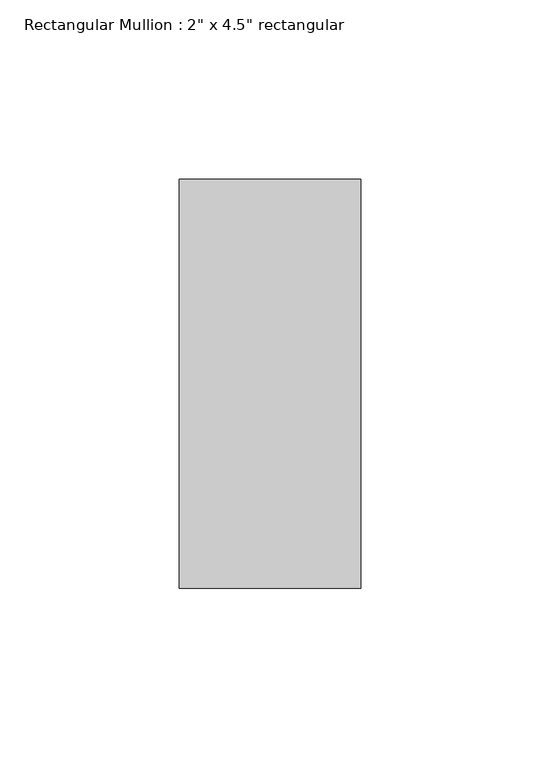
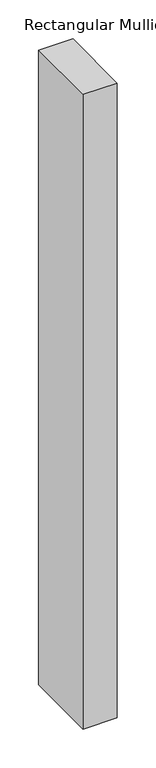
"""IFC4 building model written with IfcOpenShell, lengths in millimetres: member geometry."""

import ifcopenshell
import ifcopenshell.guid

model = None  # the IFC model being written
_history = None  # IfcOwnerHistory: only IFC2X3 demands one
_inside = {}  # id of a spatial element -> (the spatial element, [elements in it])
_under = {}  # id of a project, library or spatial element -> (it, [spatial elements below it])
_declared = {}  # id of a project -> (the project, [libraries it declares])
_typed = {}  # id of a type object -> (the type object, [elements of that type])
_made_of = {}  # id of a material, layer set ... -> (it, [elements and type objects made of it])


def new_model(schema):
    """Start an empty IFC model of exactly this schema.

    Asked for "IFC4X3", IfcOpenShell would pick the latest addendum, in which some entities
    have other attributes; the version numbers below select the first issue.
    IFC2X3 requires an IfcOwnerHistory on every rooted entity: one is made here for all.
    """
    global model, _history
    if schema == "IFC4X3":
        model = ifcopenshell.file(schema_version=(4, 3, 0, 0))
    else:
        model = ifcopenshell.file(schema=schema)
    _inside.clear()
    _under.clear()
    _declared.clear()
    _typed.clear()
    _made_of.clear()
    _history = None
    if model.schema == "IFC2X3":
        org = make("IfcOrganization", Name="unknown")
        user = make(
            "IfcPersonAndOrganization",
            ThePerson=make("IfcPerson", FamilyName="unknown"),
            TheOrganization=org,
        )
        app = make(
            "IfcApplication",
            ApplicationDeveloper=org,
            Version="unknown",
            ApplicationFullName="unknown",
            ApplicationIdentifier="unknown",
        )
        _history = make(
            "IfcOwnerHistory",
            OwningUser=user,
            OwningApplication=app,
            ChangeAction="ADDED",
            CreationDate=0,
        )
    return model


def make(cls, **values):
    """One entity of the class cls with the attributes given. An attribute that is None is left unset."""
    return model.create_entity(
        cls, **{name: value for name, value in values.items() if value is not None}
    )


def rooted(cls, **values):
    """An entity with a GlobalId (a new one), such as an element, a storey or a relation."""
    return make(cls, GlobalId=ifcopenshell.guid.new(), OwnerHistory=_history, **values)


def si_unit(unit_type, name, prefix=None):
    """IfcSIUnit, for example si_unit("LENGTHUNIT", "METRE", prefix="MILLI")."""
    return make("IfcSIUnit", UnitType=unit_type, Prefix=prefix, Name=name)


def assignment(units):
    """IfcUnitAssignment: the units of a project."""
    return None if units is None else make("IfcUnitAssignment", Units=units)


def point(xyz):
    """IfcCartesianPoint."""
    return None if xyz is None else make("IfcCartesianPoint", Coordinates=xyz)


def direction(xyz):
    """IfcDirection."""
    return None if xyz is None else make("IfcDirection", DirectionRatios=xyz)


def frame(location, z_axis=None, x_axis=None):
    """IfcAxis2Placement3D, a coordinate frame: its origin and axes. An axis left out is left unset."""
    return make(
        "IfcAxis2Placement3D",
        Location=point(location),
        Axis=direction(z_axis),
        RefDirection=direction(x_axis),
    )


def origin():
    """The frame at (0, 0, 0) with its axes left unset."""
    return frame((0.0, 0.0, 0.0))


def place(relative_to, where):
    """IfcLocalPlacement: puts the frame where relative to a parent placement (None: the world)."""
    return make(
        "IfcLocalPlacement", PlacementRelTo=relative_to, RelativePlacement=where
    )


def context(
    kind, dimensions, precision=None, world=None, true_north=None, identifier=None
):
    """IfcGeometricRepresentationContext, for example the 3D "Model" context."""
    return make(
        "IfcGeometricRepresentationContext",
        ContextIdentifier=identifier,
        ContextType=kind,
        CoordinateSpaceDimension=dimensions,
        Precision=precision,
        WorldCoordinateSystem=world,
        TrueNorth=true_north,
    )


def project(units=None, contexts=None):
    """IfcProject with its units and contexts."""
    return rooted(
        "IfcProject",
        Name="project",
        RepresentationContexts=contexts,
        UnitsInContext=assignment(units),
    )


def spatial(cls, under=None, at=None, **own):
    """A site, building, storey or space (cls), placed at a placement, below another one or the project."""
    s = rooted(cls, ObjectPlacement=at, **own)
    if under is not None:
        _under.setdefault(under.id(), (under, []))[1].append(s)
    return s


def polyline(points):
    """IfcPolyline through the points."""
    return make("IfcPolyline", Points=[point(p) for p in points])


def outline(outer, holes=None, kind="AREA"):
    """IfcArbitraryClosedProfileDef: a profile drawn as a closed curve; with holes, ...WithVoids."""
    if holes is None:
        return make("IfcArbitraryClosedProfileDef", ProfileType=kind, OuterCurve=outer)
    return make(
        "IfcArbitraryProfileDefWithVoids",
        ProfileType=kind,
        OuterCurve=outer,
        InnerCurves=holes,
    )


def extrude(swept, where, along, depth):
    """IfcExtrudedAreaSolid: the profile swept, set in the frame where, extruded along a direction by depth."""
    return make(
        "IfcExtrudedAreaSolid",
        SweptArea=swept,
        Position=where,
        ExtrudedDirection=direction(along),
        Depth=depth,
    )


def shape(context_of_items, identifier, shape_type, items):
    """IfcShapeRepresentation: the items that make up one representation, for example the "Body"."""
    return make(
        "IfcShapeRepresentation",
        ContextOfItems=context_of_items,
        RepresentationIdentifier=identifier,
        RepresentationType=shape_type,
        Items=items,
    )


def source(mapping_origin, context_of_items, identifier, shape_type, items):
    """IfcRepresentationMap: a shape defined once, which mapped items show again and again."""
    return make(
        "IfcRepresentationMap",
        MappingOrigin=mapping_origin,
        MappedRepresentation=shape(context_of_items, identifier, shape_type, items),
    )


def transform(
    local_origin,
    x_axis=None,
    y_axis=None,
    z_axis=None,
    scale=None,
    scale2=None,
    scale3=None,
    uniform=True,
):
    """IfcCartesianTransformationOperator3D, or its non-uniform kind. x_axis, y_axis, z_axis: its Axis1, 2, 3."""
    if uniform:
        return make(
            "IfcCartesianTransformationOperator3D",
            Axis1=direction(x_axis),
            Axis2=direction(y_axis),
            LocalOrigin=point(local_origin),
            Scale=scale,
            Axis3=direction(z_axis),
        )
    return make(
        "IfcCartesianTransformationOperator3DnonUniform",
        Axis1=direction(x_axis),
        Axis2=direction(y_axis),
        LocalOrigin=point(local_origin),
        Scale=scale,
        Axis3=direction(z_axis),
        Scale2=scale2,
        Scale3=scale3,
    )


def mapped(mapping_source, mapping_target):
    """IfcMappedItem: shows the shape of a source again, moved by a transform."""
    return make(
        "IfcMappedItem", MappingSource=mapping_source, MappingTarget=mapping_target
    )


def made_of(thing, what):
    """Note that an element or type object is made of a material, layer set ...; save() writes the relation."""
    if what is not None:
        _made_of.setdefault(what.id(), (what, []))[1].append(thing)
    return thing


def element(
    cls,
    number,
    at=None,
    inside=None,
    cuts=None,
    type_object=None,
    material=None,
    context=None,
    identifier="Body",
    shape_type=None,
    held_by="IfcProductDefinitionShape",
    body=None,
    shapes=None,
    **own,
):
    """One element of the class cls, such as IfcWall. Its Tag is "e" and its number.

    at: its placement. inside: the storey or other place that contains it. cuts: it is an
    opening in that element (IfcRelVoidsElement). A single representation is given by context,
    identifier, shape_type and body (its items); several are given by shapes. held_by: the class
    of the entity that holds the representations. save() writes the other relations.
    """
    e = rooted(cls, Tag="e%d" % number, ObjectPlacement=at, **own)
    if body is not None:
        shapes = [shape(context, identifier, shape_type, body)]
    if shapes is not None:
        e.Representation = make(held_by, Representations=shapes)
    if inside is not None:
        _inside.setdefault(inside.id(), (inside, []))[1].append(e)
    if cuts is not None:
        rooted(
            "IfcRelVoidsElement", RelatingBuildingElement=cuts, RelatedOpeningElement=e
        )
    if type_object is not None:
        _typed.setdefault(type_object.id(), (type_object, []))[1].append(e)
    return made_of(e, material)


def aggregate(whole, parts):
    """IfcRelAggregates: a whole, such as a stair, and the parts it consists of."""
    return rooted("IfcRelAggregates", RelatingObject=whole, RelatedObjects=parts)


def save(model, path):
    """Write the relations noted so far, then the file.

    IfcRelAggregates (storeys below a building ...), IfcRelContainedInSpatialStructure (elements
    in a storey), IfcRelDefinesByType, IfcRelAssociatesMaterial and IfcRelDeclares: one each for
    every whole, place, type object, material and project.
    """
    for whole, parts in _under.values():
        aggregate(whole, parts)
    for where, things in _inside.values():
        rooted(
            "IfcRelContainedInSpatialStructure",
            RelatedElements=things,
            RelatingStructure=where,
        )
    for kind, things in _typed.values():
        rooted("IfcRelDefinesByType", RelatedObjects=things, RelatingType=kind)
    for what, things in _made_of.values():
        rooted("IfcRelAssociatesMaterial", RelatedObjects=things, RelatingMaterial=what)
    for by, libraries in _declared.values():
        rooted("IfcRelDeclares", RelatingContext=by, RelatedDefinitions=libraries)
    model.write(path)


def member_ed5eb8ce(model_context):
    return source(origin(), model_context, "Body", "SweptSolid", [
        extrude(outline(polyline([(0.0, 57.15), (0.0, -57.15), (-50.8, -57.15), (-50.8, 57.15), (0.0, 57.15)])), frame((0.0, 0.0, -996.9444974), z_axis=(0.0, 0.0, 1.0), x_axis=(1.0, 0.0, 0.0)), (0.0, 0.0, 1.0), 996.9444974),
    ])


if __name__ == "__main__":
    model = new_model("IFC4")
    model_context = context("Model", 3, world=origin())
    ifc_project = project(units=[si_unit("LENGTHUNIT", "METRE", prefix="MILLI")], contexts=[model_context])
    site = spatial("IfcSite", under=ifc_project)
    building = spatial("IfcBuilding", under=site)
    placement = place(None, origin())
    member_shape = member_ed5eb8ce(model_context)
    element("IfcMember", 1, ObjectType="Rectangular Mullion : 2\" x 4.5\" rectangular", at=placement, inside=building, context=model_context, shape_type="MappedRepresentation", body=[
        mapped(member_shape, transform((0.0, 0.0, 0.0), x_axis=(1.0, 0.0, 0.0), y_axis=(0.0, 1.0, 0.0), z_axis=(0.0, 0.0, 1.0))),
    ])
    save(model, "model.ifc")
